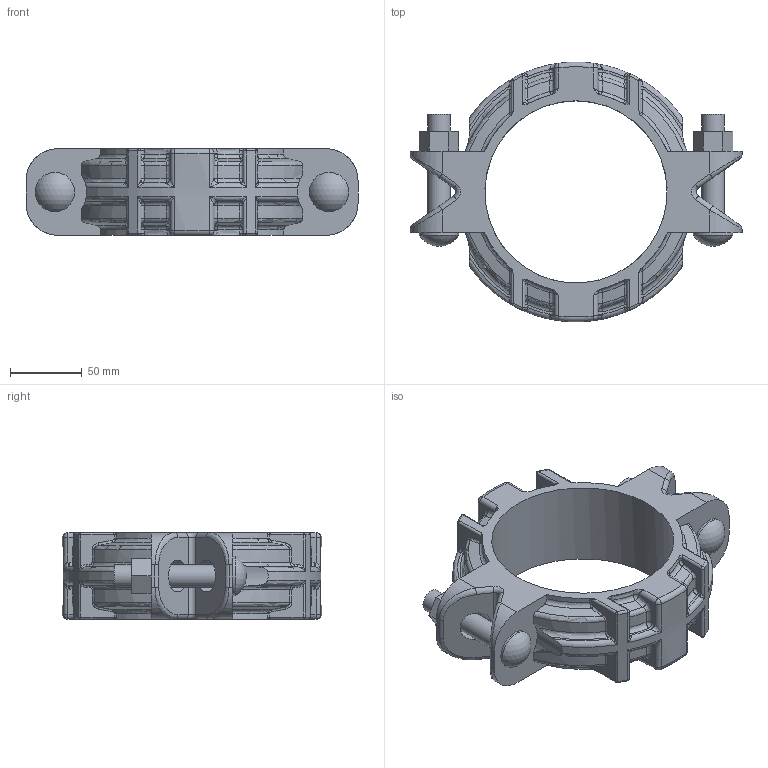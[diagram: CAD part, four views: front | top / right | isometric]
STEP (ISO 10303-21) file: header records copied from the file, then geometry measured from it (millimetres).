
FILE_DESCRIPTION(/* description */ ('VIC COUPLING STYLE XL 79','CAx-IF Rec.Pracs.---Representation and Presentation of Product Manufacturing Information (PMI)---4.0---2014-10-13'),/* implementation_level */ '2;1');
FILE_NAME(/* name */ 'C:\Users\kkamble\AppData\Roaming\Autodesk\ApplicationPlugins\Back Up\Victaulic_IPS-XL_Coupling_Style XL79 (XLG)\Victaulic_IPS-XL_Coupling_Style XL79 (XLG)_4 (100).stp',/* time_stamp */ '2020-08-05T13:49:40+05:00',/* author */ ('jheald'),/* organization */ ('Victaulic'),/* preprocessor_version */ 'ST-DEVELOPER v17.2',/* originating_system */ 'Autodesk Inventor 2019',/* authorisation */ '');
FILE_SCHEMA (('AP242_MANAGED_MODEL_BASED_3D_ENGINEERING_MIM_LF { 1 0 10303 442 1 1 4 }'));
Length unit declared in the file: inch
Products named in the file (1): XL79-04.0
Bounding box: 231.37 x 180.91 x 60.46 mm (x, y, z)
Volume: 705227.1 mm3; surface area: 109774 mm2
Topology: 1 solids, 1 shells, 575 faces, 1375 edges, 788 vertices
Faces by surface type: cylinder 195, bspline 160, plane 82, torus 80, sphere 42, cone 16
Full cylindrical faces by diameter (mm): 15.875 x4, 27.381 x2, 127 x1
Entity records: 22698 total; most frequent: CARTESIAN_POINT 9713, ORIENTED_EDGE 2702, DIRECTION 2405, EDGE_CURVE 1351, AXIS2_PLACEMENT_3D 1005, VERTEX_POINT 788, EDGE_LOOP 591, STYLED_ITEM 577
